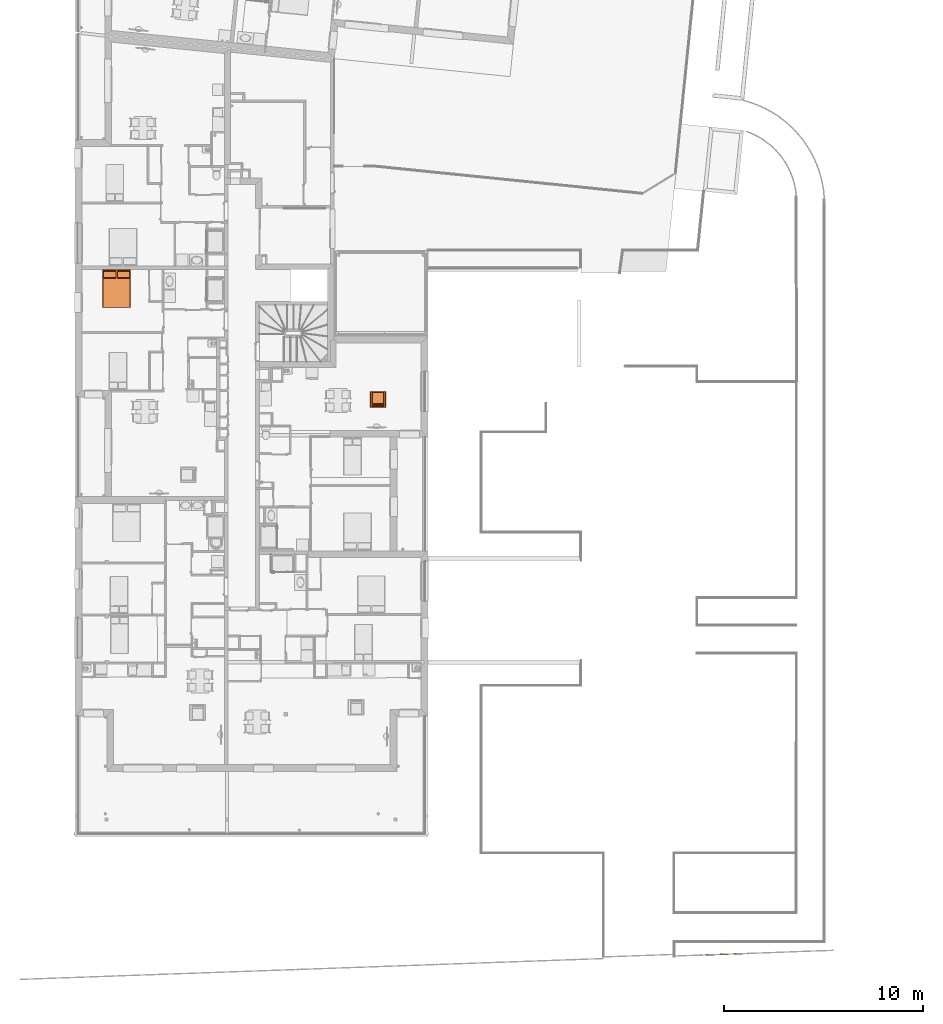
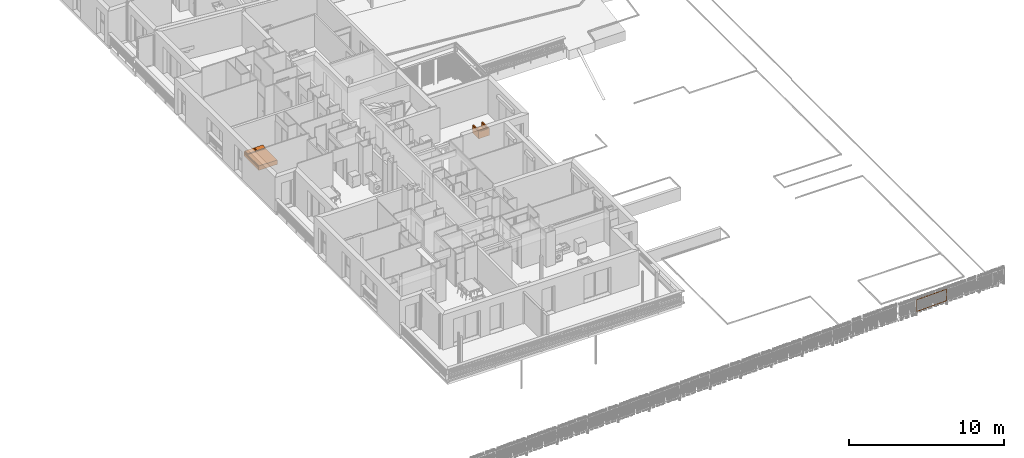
# One storey, part 156 of 171: 3 proxies.
"""IFC2X3 building model written with IfcOpenShell, lengths in millimetres."""

from ifc_helpers import new_model, entity, si_unit, converted_unit, derived_unit, money_unit, direction, frame, origin_with_axes, place, context, subcontext, project, spatial, open_shell, faceted_brep, surface_model, source, transform, mapped, type_object, element, save


model = new_model("IFC2X3")

# Units and contexts
model_context = context("Model", 3, precision=0.01, world=origin_with_axes(), true_north=direction((0.0, 1.0)))
body_context = subcontext(model_context, "Body", "Model", "MODEL_VIEW")
ifc_project = project(units=[si_unit("LENGTHUNIT", "METRE", prefix="MILLI"), si_unit("AREAUNIT", "SQUARE_METRE"), si_unit("VOLUMEUNIT", "CUBIC_METRE"), converted_unit("PLANEANGLEUNIT", "DEGREE", entity("IfcPlaneAngleMeasure", 0.0174532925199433), si_unit("PLANEANGLEUNIT", "RADIAN"), dimensions=[0, 0, 0, 0, 0, 0, 0]), money_unit("USD"), converted_unit("TIMEUNIT", "Year", entity("IfcTimeMeasure", 31557600.0), si_unit("TIMEUNIT", "SECOND"), dimensions=[0, 0, 1, 0, 0, 0, 0]), si_unit("MASSUNIT", "GRAM", prefix="KILO"), si_unit("THERMODYNAMICTEMPERATUREUNIT", "DEGREE_CELSIUS"), si_unit("LUMINOUSINTENSITYUNIT", "LUMEN"), si_unit("ENERGYUNIT", "JOULE", prefix="MEGA"), derived_unit("THERMALCONDUCTANCEUNIT", [(si_unit("POWERUNIT", "WATT"), 1), (si_unit("LENGTHUNIT", "METRE"), -1), (si_unit("THERMODYNAMICTEMPERATUREUNIT", "KELVIN"), -1)]), derived_unit("SPECIFICHEATCAPACITYUNIT", [(si_unit("ENERGYUNIT", "JOULE"), 1), (si_unit("MASSUNIT", "GRAM", prefix="KILO"), -1), (si_unit("THERMODYNAMICTEMPERATUREUNIT", "KELVIN"), -1)]), derived_unit("MASSDENSITYUNIT", [(si_unit("MASSUNIT", "GRAM", prefix="KILO"), 1), (si_unit("VOLUMEUNIT", "CUBIC_METRE"), -1)])], contexts=[model_context])

# Site, building, storey
site_placement = place(None, origin_with_axes())
site = spatial("IfcSite", under=ifc_project, at=site_placement, Name="Site", CompositionType="ELEMENT")
building_placement = place(site_placement, origin_with_axes())
building = spatial("IfcBuilding", under=site, at=building_placement, Name="Bâtiment", CompositionType="ELEMENT")
storey_placement = place(building_placement, frame((0.0, 0.0, 3000.0), z_axis=(0.0, 0.0, 1.0), x_axis=(1.0, 0.0, 0.0)))
storey = spatial("IfcBuildingStorey", under=building, at=storey_placement, Name="rdc", CompositionType="ELEMENT", Elevation=3000.0)

# Proxies
building_element_proxy_type = type_object("IfcBuildingElementProxyType", PredefinedType="NOTDEFINED")
shared_shape_1 = source(origin_with_axes(), body_context, "Body", "Brep", [
    faceted_brep([(-333.3000000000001, 66.7, 0.0), (-333.3000000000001, 100.0, 0.0), (-300.0000000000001, 100.0, 0.0), (-300.0000000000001, 66.7, 0.0), (-333.3000000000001, 66.7, 66.69999999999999), (-333.3000000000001, 100.0, 66.69999999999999), (-300.0000000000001, 100.0, 66.69999999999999), (-300.0000000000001, 66.7, 66.69999999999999)], [[[0, 1, 2, 3]], [[0, 4, 5, 1]], [[1, 5, 6, 2]], [[2, 6, 7, 3]], [[3, 7, 4, 0]], [[7, 6, 5, 4]]]),
    faceted_brep([(-333.3000000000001, 700.0000000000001, 0.0), (-333.3000000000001, 733.3000000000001, 0.0), (-300.0000000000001, 733.3000000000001, 0.0), (-300.0000000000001, 700.0000000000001, 0.0), (-333.3000000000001, 700.0000000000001, 66.69999999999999), (-333.3000000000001, 733.3000000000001, 66.69999999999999), (-300.0000000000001, 733.3000000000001, 66.69999999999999), (-300.0000000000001, 700.0000000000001, 66.69999999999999)], [[[0, 1, 2, 3]], [[0, 4, 5, 1]], [[1, 5, 6, 2]], [[2, 6, 7, 3]], [[3, 7, 4, 0]], [[7, 6, 5, 4]]]),
    faceted_brep([(300.0000000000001, 66.7, 0.0), (300.0000000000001, 100.0, 0.0), (333.3000000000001, 100.0, 0.0), (333.3000000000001, 66.7, 0.0), (300.0000000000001, 66.7, 66.69999999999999), (300.0000000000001, 100.0, 66.69999999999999), (333.3000000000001, 100.0, 66.69999999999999), (333.3000000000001, 66.7, 66.69999999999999)], [[[0, 1, 2, 3]], [[0, 4, 5, 1]], [[1, 5, 6, 2]], [[2, 6, 7, 3]], [[3, 7, 4, 0]], [[7, 6, 5, 4]]]),
    faceted_brep([(300.0000000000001, 700.0000000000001, 0.0), (300.0000000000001, 733.3000000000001, 0.0), (333.3000000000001, 733.3000000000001, 0.0), (333.3000000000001, 700.0000000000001, 0.0), (300.0000000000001, 700.0000000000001, 66.69999999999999), (300.0000000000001, 733.3000000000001, 66.69999999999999), (333.3000000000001, 733.3000000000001, 66.69999999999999), (333.3000000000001, 700.0000000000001, 66.69999999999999)], [[[0, 1, 2, 3]], [[0, 4, 5, 1]], [[1, 5, 6, 2]], [[2, 6, 7, 3]], [[3, 7, 4, 0]], [[7, 6, 5, 4]]]),
    faceted_brep([(-266.7, 800.0, 66.69999999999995), (-266.7, 0.0, 66.69999999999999), (-400.033, 0.0, 66.69999999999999), (-400.033, 800.0, 66.69999999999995), (-266.7, 800.0, 67.19999999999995), (-266.7, 0.0, 67.19999999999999), (-266.7, 0.0, 633.37), (-266.7, 0.0, 636.2859999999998), (-267.713, 0.0, 642.029), (-269.707, 0.0, 647.5099999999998), (-272.623, 0.0, 652.5599999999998), (-276.372, 0.0, 657.0279999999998), (-280.84, 0.0, 660.7769999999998), (-285.89, 0.0, 663.6929999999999), (-291.371, 0.0, 665.6869999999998), (-297.114, 0.0, 666.6999999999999), (-300.03, 0.0, 666.6999999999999), (-366.703, 0.0, 666.6999999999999), (-369.619, 0.0, 666.6999999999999), (-375.363, 0.0, 665.6869999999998), (-380.843, 0.0, 663.6929999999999), (-385.894, 0.0, 660.7769999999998), (-390.361, 0.0, 657.0279999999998), (-394.11, 0.0, 652.5599999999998), (-397.026, 0.0, 647.5099999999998), (-399.021, 0.0, 642.029), (-400.033, 0.0, 636.2859999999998), (-400.033, 0.0, 633.37), (-400.033, 800.0, 633.37), (-400.033, 800.0, 636.2859999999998), (-399.021, 800.0, 642.029), (-397.026, 800.0, 647.5099999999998), (-394.11, 800.0, 652.5599999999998), (-390.361, 800.0, 657.0279999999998), (-385.894, 800.0, 660.7769999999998), (-380.843, 800.0, 663.6929999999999), (-375.363, 800.0, 665.6869999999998), (-369.619, 800.0, 666.6999999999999), (-366.703, 800.0, 666.6999999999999), (-300.03, 800.0, 666.6999999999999), (-297.114, 800.0, 666.6999999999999), (-291.371, 800.0, 665.6869999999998), (-285.89, 800.0, 663.6929999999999), (-280.84, 800.0, 660.7769999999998), (-276.372, 800.0, 657.0279999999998), (-272.623, 800.0, 652.5599999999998), (-269.707, 800.0, 647.5099999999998), (-267.713, 800.0, 642.029), (-266.7, 800.0, 636.2859999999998), (-266.7, 800.0, 633.37)], [[[0, 1, 2, 3]], [[4, 5, 1, 0]], [[1, 5, 6, 7, 8, 9, 10, 11, 12, 13, 14, 15, 16, 17, 18, 19, 20, 21, 22, 23, 24, 25, 26, 27, 2]], [[3, 2, 27, 28]], [[0, 3, 28, 29, 30, 31, 32, 33, 34, 35, 36, 37, 38, 39, 40, 41, 42, 43, 44, 45, 46, 47, 48, 49, 4]], [[49, 6, 5, 4]], [[48, 7, 6, 49]], [[47, 8, 7, 48]], [[46, 9, 8, 47]], [[45, 10, 9, 46]], [[44, 11, 10, 45]], [[43, 12, 11, 44]], [[42, 13, 12, 43]], [[41, 14, 13, 42]], [[40, 15, 14, 41]], [[39, 16, 15, 40]], [[38, 17, 16, 39]], [[37, 18, 17, 38]], [[36, 19, 18, 37]], [[35, 20, 19, 36]], [[34, 21, 20, 35]], [[33, 22, 21, 34]], [[32, 23, 22, 33]], [[31, 24, 23, 32]], [[30, 25, 24, 31]], [[29, 26, 25, 30]], [[28, 27, 26, 29]]]),
    faceted_brep([(400.0, 800.0, 66.69999999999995), (400.0, 0.0, 66.69999999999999), (266.667, 0.0, 66.69999999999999), (266.667, 800.0, 66.69999999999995), (400.0, 800.0, 67.19999999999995), (400.0, 0.0, 67.19999999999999), (400.0, 0.0, 633.37), (400.0, 0.0, 636.2859999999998), (398.987, 0.0, 642.029), (396.9930000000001, 0.0, 647.5099999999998), (394.077, 0.0, 652.5599999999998), (390.328, 0.0, 657.0279999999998), (385.86, 0.0, 660.7769999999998), (380.8100000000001, 0.0, 663.6929999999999), (375.329, 0.0, 665.6869999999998), (369.586, 0.0, 666.6999999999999), (366.67, 0.0, 666.6999999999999), (299.997, 0.0, 666.6999999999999), (297.081, 0.0, 666.6999999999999), (291.337, 0.0, 665.6869999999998), (285.857, 0.0, 663.6929999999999), (280.806, 0.0, 660.7769999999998), (276.339, 0.0, 657.0279999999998), (272.59, 0.0, 652.5599999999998), (269.674, 0.0, 647.5099999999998), (267.679, 0.0, 642.029), (266.667, 0.0, 636.2859999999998), (266.667, 0.0, 633.37), (266.667, 800.0, 633.37), (266.667, 800.0, 636.2859999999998), (267.679, 800.0, 642.029), (269.674, 800.0, 647.5099999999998), (272.59, 800.0, 652.5599999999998), (276.339, 800.0, 657.0279999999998), (280.806, 800.0, 660.7769999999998), (285.857, 800.0, 663.6929999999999), (291.337, 800.0, 665.6869999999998), (297.081, 800.0, 666.6999999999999), (299.997, 800.0, 666.6999999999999), (366.67, 800.0, 666.6999999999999), (369.586, 800.0, 666.6999999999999), (375.329, 800.0, 665.6869999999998), (380.8100000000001, 800.0, 663.6929999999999), (385.86, 800.0, 660.7769999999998), (390.328, 800.0, 657.0279999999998), (394.077, 800.0, 652.5599999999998), (396.9930000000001, 800.0, 647.5099999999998), (398.987, 800.0, 642.029), (400.0, 800.0, 636.2859999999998), (400.0, 800.0, 633.37)], [[[0, 1, 2, 3]], [[4, 5, 1, 0]], [[1, 5, 6, 7, 8, 9, 10, 11, 12, 13, 14, 15, 16, 17, 18, 19, 20, 21, 22, 23, 24, 25, 26, 27, 2]], [[3, 2, 27, 28]], [[0, 3, 28, 29, 30, 31, 32, 33, 34, 35, 36, 37, 38, 39, 40, 41, 42, 43, 44, 45, 46, 47, 48, 49, 4]], [[49, 6, 5, 4]], [[48, 7, 6, 49]], [[47, 8, 7, 48]], [[46, 9, 8, 47]], [[45, 10, 9, 46]], [[44, 11, 10, 45]], [[43, 12, 11, 44]], [[42, 13, 12, 43]], [[41, 14, 13, 42]], [[40, 15, 14, 41]], [[39, 16, 15, 40]], [[38, 17, 16, 39]], [[37, 18, 17, 38]], [[36, 19, 18, 37]], [[35, 20, 19, 36]], [[34, 21, 20, 35]], [[33, 22, 21, 34]], [[32, 23, 22, 33]], [[31, 24, 23, 32]], [[30, 25, 24, 31]], [[29, 26, 25, 30]], [[28, 27, 26, 29]]]),
    faceted_brep([(266.6667, 0.0, 66.69999999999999), (-266.6333, 0.0, 66.69999999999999), (-266.6333, 800.0, 66.69999999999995), (266.6667, 800.0, 66.69999999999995), (266.6667, 0.0, 67.2), (-266.6333, 0.0, 67.2), (-266.6333, 0.0, 325.5449999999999), (-266.6333, -0.2359999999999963, 327.1109999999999), (-266.6333, 1.052000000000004, 338.7049999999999), (-266.6333, 4.334000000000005, 349.8989999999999), (-266.6333, 9.510000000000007, 360.3539999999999), (-266.6333, 16.42300000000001, 369.7509999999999), (-266.6333, 24.86200000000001, 377.8049999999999), (-266.6333, 34.57200000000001, 384.271), (-266.6333, 45.25800000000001, 388.9519999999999), (-266.6333, 56.59300000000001, 391.707), (-266.6333, 68.23500000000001, 392.4519999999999), (-266.6333, 74.03200000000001, 391.808), (-266.6333, 600.0000000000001, 333.3669999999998), (-266.6333, 600.0980000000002, 333.8569999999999), (-266.6333, 655.9480000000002, 613.1049999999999), (-266.6333, 656.6790000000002, 617.351), (-266.6333, 660.6690000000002, 628.314), (-266.6333, 666.5020000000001, 638.4159999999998), (-266.6333, 674.0000000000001, 647.3529999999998), (-266.6333, 682.937, 654.8509999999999), (-266.6333, 693.0390000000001, 660.6839999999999), (-266.6333, 704.0020000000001, 664.6739999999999), (-266.6333, 715.4900000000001, 666.6999999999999), (-266.6333, 721.3230000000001, 666.6999999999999), (-266.6333, 733.33, 666.6999999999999), (-266.6333, 739.163, 666.6999999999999), (-266.6333, 750.6510000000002, 664.6739999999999), (-266.6333, 761.614, 660.6839999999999), (-266.6333, 771.716, 654.8509999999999), (-266.6333, 780.653, 647.3529999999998), (-266.6333, 788.1510000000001, 638.4159999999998), (-266.6333, 793.984, 628.314), (-266.6333, 797.974, 617.351), (-266.6333, 800.0, 605.8629999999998), (-266.6333, 800.0, 600.0299999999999), (266.6667, 800.0, 600.0299999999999), (266.6667, 800.0, 605.8629999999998), (266.6667, 797.974, 617.351), (266.6667, 793.984, 628.314), (266.6667, 788.1510000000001, 638.4159999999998), (266.6667, 780.653, 647.3529999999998), (266.6667, 771.716, 654.8509999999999), (266.6667, 761.614, 660.6839999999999), (266.6667, 750.6510000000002, 664.6739999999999), (266.6667, 739.163, 666.6999999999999), (266.6667, 733.33, 666.6999999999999), (266.6667, 721.3230000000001, 666.6999999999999), (266.6667, 715.4900000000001, 666.6999999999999), (266.6667, 704.0020000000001, 664.6739999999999), (266.6667, 693.0390000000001, 660.6839999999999), (266.6667, 682.937, 654.8509999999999), (266.6667, 674.0000000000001, 647.3529999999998), (266.6667, 666.5020000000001, 638.4159999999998), (266.6667, 660.6690000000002, 628.314), (266.6667, 656.6790000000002, 617.351), (266.6667, 655.9480000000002, 613.1049999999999), (266.6667, 600.0980000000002, 333.8569999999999), (266.6667, 600.0000000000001, 333.3669999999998), (266.6667, 74.03200000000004, 391.808), (266.6667, 68.23500000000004, 392.4519999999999), (266.6667, 56.59300000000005, 391.707), (266.6667, 45.25800000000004, 388.9519999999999), (266.6667, 34.57200000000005, 384.271), (266.6667, 24.86200000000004, 377.8049999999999), (266.6667, 16.42300000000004, 369.7509999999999), (266.6667, 9.510000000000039, 360.3539999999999), (266.6667, 4.334000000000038, 349.8989999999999), (266.6667, 1.052000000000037, 338.7049999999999), (266.6667, -0.2359999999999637, 327.1109999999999), (266.6667, 0.0, 325.5449999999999)], [[[0, 1, 2, 3]], [[4, 5, 1, 0]], [[1, 5, 6, 7, 8, 9, 10, 11, 12, 13, 14, 15, 16, 17, 18, 19, 20, 21, 22, 23, 24, 25, 26, 27, 28, 29, 30, 31, 32, 33, 34, 35, 36, 37, 38, 39, 40, 2]], [[3, 2, 40, 41]], [[0, 3, 41, 42, 43, 44, 45, 46, 47, 48, 49, 50, 51, 52, 53, 54, 55, 56, 57, 58, 59, 60, 61, 62, 63, 64, 65, 66, 67, 68, 69, 70, 71, 72, 73, 74, 75, 4]], [[75, 6, 5, 4]], [[74, 7, 6, 75]], [[73, 8, 7, 74]], [[72, 9, 8, 73]], [[71, 10, 9, 72]], [[70, 11, 10, 71]], [[69, 12, 11, 70]], [[68, 13, 12, 69]], [[67, 14, 13, 68]], [[66, 15, 14, 67]], [[65, 16, 15, 66]], [[64, 17, 16, 65]], [[63, 18, 17, 64]], [[62, 19, 18, 63]], [[61, 20, 19, 62]], [[60, 21, 20, 61]], [[59, 22, 21, 60]], [[58, 23, 22, 59]], [[57, 24, 23, 58]], [[56, 25, 24, 57]], [[55, 26, 25, 56]], [[54, 27, 26, 55]], [[53, 28, 27, 54]], [[52, 29, 28, 53]], [[51, 30, 29, 52]], [[50, 31, 30, 51]], [[49, 32, 31, 50]], [[48, 33, 32, 49]], [[47, 34, 33, 48]], [[46, 35, 34, 47]], [[45, 36, 35, 46]], [[44, 37, 36, 45]], [[43, 38, 37, 44]], [[42, 39, 38, 43]], [[41, 40, 39, 42]]]),
])
proxy_1_placement = place(storey_placement, frame((2231855.23564432, -638726.0960661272, 800.0000000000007), z_axis=(0.0, 0.0, 1.0), x_axis=(-0.9999998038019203, 0.0006264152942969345, 0.0)))
element("IfcBuildingElementProxy", 1, at=proxy_1_placement, inside=storey, type_object=building_element_proxy_type, Name="Obj.-034", context=body_context, shape_type="MappedRepresentation", body=[
    mapped(shared_shape_1, transform((0.0, 0.0, 0.0))),
])
shared_shape_2 = source(origin_with_axes(), body_context, "Body", "SurfaceModel", [
    faceted_brep([(-622.2222222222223, -95.0, 0.0), (-661.1111111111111, -95.0, 0.0), (-661.1111111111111, -47.5, 0.0), (-622.2222222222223, -47.5, 0.0), (-622.2222222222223, -95.0, 50.0), (-661.1111111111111, -95.0, 50.0), (-661.1111111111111, -47.5, 50.0), (-622.2222222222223, -47.5, 50.0)], [[[0, 1, 2, 3]], [[1, 0, 4, 5]], [[2, 1, 5, 6]], [[3, 2, 6, 7]], [[0, 3, 7, 4]], [[5, 4, 7, 6]]]),
    faceted_brep([(-622.2222222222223, -1852.5, 0.0), (-661.1111111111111, -1852.5, 0.0), (-661.1111111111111, -1805.0, 0.0), (-622.2222222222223, -1805.0, 0.0), (-622.2222222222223, -1852.5, 50.0), (-661.1111111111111, -1852.5, 50.0), (-661.1111111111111, -1805.0, 50.0), (-622.2222222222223, -1805.0, 50.0)], [[[0, 1, 2, 3]], [[1, 0, 4, 5]], [[2, 1, 5, 6]], [[3, 2, 6, 7]], [[0, 3, 7, 4]], [[5, 4, 7, 6]]]),
    faceted_brep([(661.111111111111, -1852.5, 0.0), (622.2222222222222, -1852.5, 0.0), (622.2222222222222, -1805.0, 0.0), (661.111111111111, -1805.0, 0.0), (661.111111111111, -1852.5, 50.0), (622.2222222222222, -1852.5, 50.0), (622.2222222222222, -1805.0, 50.0), (661.111111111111, -1805.0, 50.0)], [[[0, 1, 2, 3]], [[1, 0, 4, 5]], [[2, 1, 5, 6]], [[3, 2, 6, 7]], [[0, 3, 7, 4]], [[5, 4, 7, 6]]]),
    faceted_brep([(661.111111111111, -94.99999999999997, 0.0), (622.2222222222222, -94.99999999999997, 0.0), (622.2222222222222, -47.49999999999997, 0.0), (661.111111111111, -47.49999999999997, 0.0), (661.111111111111, -94.99999999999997, 50.0), (622.2222222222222, -94.99999999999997, 50.0), (622.2222222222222, -47.49999999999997, 50.0), (661.111111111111, -47.49999999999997, 50.0)], [[[0, 1, 2, 3]], [[1, 0, 4, 5]], [[2, 1, 5, 6]], [[3, 2, 6, 7]], [[0, 3, 7, 4]], [[5, 4, 7, 6]]]),
    faceted_brep([(-700.0, 0.0, 50.0), (700.0, 0.0, 50.0), (700.0, -1900.0, 50.00000000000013), (-700.0, -1900.0, 50.00000000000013), (-700.0, 0.0, 250.0), (700.0, 0.0, 250.0), (700.0, -1900.0, 250.0000000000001), (-700.0, -1900.0, 250.0000000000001)], [[[0, 1, 2, 3]], [[0, 4, 5, 1]], [[1, 5, 6, 2]], [[3, 2, 6, 7]], [[4, 0, 3, 7]], [[5, 4, 7, 6]]]),
    surface_model("IfcShellBasedSurfaceModel", [(661.1111111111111, 0.0, 250.0), (667.8640957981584, 0.0, 250.7596123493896), (667.8640957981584, -1900.0, 250.7596123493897), (661.1111111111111, -1900.0, 250.0000000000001), (-661.1111111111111, 0.0, 250.0), (-667.8640957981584, 0.0, 250.7596123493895), (-674.4118944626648, 0.0, 253.0153689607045), (-680.5555555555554, 0.0, 256.698729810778), (-686.1084070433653, 0.0, 261.6977778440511), (-690.9017283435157, 0.0, 267.860619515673), (-694.7898768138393, 0.0, 275.0), (-697.654713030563, 0.0, 282.8989928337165), (-699.4091903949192, 0.0, 291.3175911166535), (-700.0, 0.0, 300.0000000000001), (-700.0000000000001, 0.0, 350.0), (-699.4091903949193, 0.0, 358.6824088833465), (-697.654713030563, 0.0, 367.1010071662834), (-694.7898768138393, 0.0, 375.0), (-690.9017283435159, 0.0, 382.139380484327), (-686.1084070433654, 0.0, 388.3022221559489), (-680.5555555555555, 0.0, 393.301270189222), (-674.4118944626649, 0.0, 396.9846310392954), (-667.8640957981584, 0.0, 399.2403876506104), (-661.1111111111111, 0.0, 400.0), (661.111111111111, 0.0, 400.0000000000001), (667.8640957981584, 0.0, 399.2403876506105), (674.4118944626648, 0.0, 396.9846310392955), (680.5555555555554, 0.0, 393.301270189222), (686.1084070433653, 0.0, 388.3022221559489), (690.9017283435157, 0.0, 382.139380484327), (694.7898768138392, 0.0, 375.0000000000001), (697.654713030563, 0.0, 367.1010071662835), (699.4091903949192, 0.0, 358.6824088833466), (700.0, 0.0, 350.0000000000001), (700.0, 0.0, 300.0000000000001), (699.4091903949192, 0.0, 291.3175911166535), (697.654713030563, 0.0, 282.8989928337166), (694.7898768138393, 0.0, 275.0), (690.9017283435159, 0.0, 267.8606195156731), (686.1084070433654, 0.0, 261.6977778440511), (680.5555555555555, 0.0, 256.698729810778), (674.4118944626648, 0.0, 253.0153689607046), (674.4118944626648, -1900.0, 253.0153689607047), (-661.1111111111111, -1900.0, 250.0000000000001), (680.5555555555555, -1900.0, 256.6987298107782), (686.1084070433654, -1900.0, 261.6977778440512), (690.9017283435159, -1900.0, 267.8606195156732), (694.7898768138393, -1900.0, 275.0000000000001), (697.654713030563, -1900.0, 282.8989928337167), (699.4091903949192, -1900.0, 291.3175911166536), (700.0, -1900.0, 300.0000000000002), (700.0, -1900.0, 350.0000000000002), (699.4091903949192, -1900.0, 358.6824088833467), (697.654713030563, -1900.0, 367.1010071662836), (694.7898768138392, -1900.0, 375.0000000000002), (690.9017283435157, -1900.0, 382.1393804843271), (686.1084070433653, -1900.0, 388.302222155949), (680.5555555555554, -1900.0, 393.3012701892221), (674.4118944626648, -1900.0, 396.9846310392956), (667.8640957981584, -1900.0, 399.2403876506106), (661.111111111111, -1900.0, 400.0000000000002), (-661.1111111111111, -1900.0, 400.0000000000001), (-667.8640957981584, -1900.0, 399.2403876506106), (-674.4118944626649, -1900.0, 396.9846310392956), (-680.5555555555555, -1900.0, 393.3012701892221), (-686.1084070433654, -1900.0, 388.302222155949), (-690.9017283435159, -1900.0, 382.1393804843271), (-694.7898768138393, -1900.0, 375.0000000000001), (-697.654713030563, -1900.0, 367.1010071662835), (-699.4091903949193, -1900.0, 358.6824088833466), (-700.0000000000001, -1900.0, 350.0000000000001), (-700.0, -1900.0, 300.0000000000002), (-699.4091903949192, -1900.0, 291.3175911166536), (-697.654713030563, -1900.0, 282.8989928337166), (-694.7898768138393, -1900.0, 275.0000000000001), (-690.9017283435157, -1900.0, 267.8606195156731), (-686.1084070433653, -1900.0, 261.6977778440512), (-680.5555555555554, -1900.0, 256.6987298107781), (-674.4118944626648, -1900.0, 253.0153689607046), (-667.8640957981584, -1900.0, 250.7596123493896)], [open_shell([[[0, 1, 2, 3]], [[4, 5, 6, 7, 8, 9, 10, 11, 12, 13, 14, 15, 16, 17, 18, 19, 20, 21, 22, 23, 24, 25, 26, 27, 28, 29, 30, 31, 32, 33, 34, 35, 36, 37, 38, 39, 40, 41, 1, 0]], [[1, 41, 42, 2]], [[43, 3, 2, 42, 44, 45, 46, 47, 48, 49, 50, 51, 52, 53, 54, 55, 56, 57, 58, 59, 60, 61, 62, 63, 64, 65, 66, 67, 68, 69, 70, 71, 72, 73, 74, 75, 76, 77, 78, 79]], [[5, 4, 43, 79]], [[6, 5, 79, 78]], [[7, 6, 78, 77]], [[8, 7, 77, 76]], [[9, 8, 76, 75]], [[10, 9, 75, 74]], [[11, 10, 74, 73]], [[12, 11, 73, 72]], [[13, 12, 72, 71]], [[14, 13, 71, 70]], [[15, 14, 70, 69]], [[16, 15, 69, 68]], [[17, 16, 68, 67]], [[18, 17, 67, 66]], [[19, 18, 66, 65]], [[20, 19, 65, 64]], [[21, 20, 64, 63]], [[22, 21, 63, 62]], [[23, 22, 62, 61]], [[24, 23, 61, 60]], [[25, 24, 60, 59]], [[26, 25, 59, 58]], [[27, 26, 58, 57]], [[28, 27, 57, 56]], [[29, 28, 56, 55]], [[30, 29, 55, 54]], [[31, 30, 54, 53]], [[32, 31, 53, 52]], [[33, 32, 52, 51]], [[34, 33, 51, 50]], [[35, 34, 50, 49]], [[36, 35, 49, 48]], [[37, 36, 48, 47]], [[38, 37, 47, 46]], [[39, 38, 46, 45]], [[40, 39, 45, 44]], [[41, 40, 44, 42]]])]),
    faceted_brep([(38.88888888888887, -47.49999999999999, 400.0), (38.88888888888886, -47.49999999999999, 443.4), (661.1111111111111, -47.50000000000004, 443.4000000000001), (661.1111111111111, -47.50000000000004, 400.0000000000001), (38.88888888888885, -427.5, 400.0), (38.88888888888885, -427.6960812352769, 408.695442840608), (38.88888888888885, -426.4675711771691, 417.2966661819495), (38.88888888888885, -423.8511300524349, 425.5469991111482), (38.88888888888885, -419.9248356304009, 433.2002417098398), (38.88888888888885, -414.8058532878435, 440.0280119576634), (38.88888888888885, -408.6469396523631, 445.826560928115), (38.88888888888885, -401.6318841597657, 450.4228529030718), (38.88888888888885, -393.9700245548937, 453.6797289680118), (38.88888888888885, -385.89, 455.5), (38.88888888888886, -100.89, 493.0000000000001), (38.88888888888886, -92.85488048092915, 493.3370808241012), (38.88888888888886, -84.88093291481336, 492.2422169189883), (38.88888888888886, -77.19681007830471, 489.7468034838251), (38.88888888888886, -70.02285403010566, 485.922396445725), (38.88888888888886, -63.56477780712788, 480.878660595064), (38.88888888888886, -58.00776660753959, 474.7602249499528), (38.88888888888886, -53.51116760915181, 467.7425355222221), (38.88888888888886, -50.20392069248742, 460.0268244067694), (38.88888888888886, -48.18086109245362, 451.834339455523), (661.1111111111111, -48.18086109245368, 451.8343394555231), (661.1111111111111, -50.20392069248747, 460.0268244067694), (661.1111111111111, -53.51116760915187, 467.7425355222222), (661.1111111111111, -58.00776660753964, 474.7602249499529), (661.1111111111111, -63.56477780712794, 480.878660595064), (661.1111111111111, -70.02285403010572, 485.922396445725), (661.1111111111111, -77.19681007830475, 489.7468034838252), (661.1111111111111, -84.88093291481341, 492.2422169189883), (661.1111111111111, -92.85488048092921, 493.3370808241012), (661.1111111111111, -100.8900000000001, 493.0000000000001), (661.1111111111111, -385.89, 455.5000000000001), (661.1111111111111, -393.9700245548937, 453.6797289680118), (661.1111111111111, -401.6318841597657, 450.4228529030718), (661.1111111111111, -408.6469396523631, 445.826560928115), (661.1111111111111, -414.8058532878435, 440.0280119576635), (661.1111111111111, -419.924835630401, 433.2002417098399), (661.1111111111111, -423.8511300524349, 425.5469991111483), (661.1111111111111, -426.4675711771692, 417.2966661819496), (661.1111111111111, -427.6960812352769, 408.6954428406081), (661.1111111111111, -427.5, 400.0000000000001)], [[[0, 1, 2, 3]], [[0, 4, 5, 6, 7, 8, 9, 10, 11, 12, 13, 14, 15, 16, 17, 18, 19, 20, 21, 22, 23, 1]], [[1, 23, 24, 2]], [[3, 2, 24, 25, 26, 27, 28, 29, 30, 31, 32, 33, 34, 35, 36, 37, 38, 39, 40, 41, 42, 43]], [[4, 0, 3, 43]], [[5, 4, 43, 42]], [[6, 5, 42, 41]], [[7, 6, 41, 40]], [[8, 7, 40, 39]], [[9, 8, 39, 38]], [[10, 9, 38, 37]], [[11, 10, 37, 36]], [[12, 11, 36, 35]], [[13, 12, 35, 34]], [[14, 13, 34, 33]], [[15, 14, 33, 32]], [[16, 15, 32, 31]], [[17, 16, 31, 30]], [[18, 17, 30, 29]], [[19, 18, 29, 28]], [[20, 19, 28, 27]], [[21, 20, 27, 26]], [[22, 21, 26, 25]], [[23, 22, 25, 24]]]),
    faceted_brep([(-661.1111111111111, -47.49999999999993, 399.9999999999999), (-661.1111111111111, -47.49999999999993, 443.4), (-38.88888888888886, -47.49999999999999, 443.4), (-38.88888888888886, -47.49999999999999, 400.0), (-661.1111111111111, -427.4999999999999, 399.9999999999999), (-661.1111111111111, -427.6960812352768, 408.6954428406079), (-661.1111111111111, -426.4675711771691, 417.2966661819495), (-661.1111111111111, -423.8511300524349, 425.5469991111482), (-661.1111111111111, -419.9248356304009, 433.2002417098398), (-661.1111111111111, -414.8058532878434, 440.0280119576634), (-661.1111111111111, -408.646939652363, 445.8265609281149), (-661.1111111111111, -401.6318841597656, 450.4228529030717), (-661.1111111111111, -393.9700245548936, 453.6797289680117), (-661.1111111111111, -385.8899999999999, 455.4999999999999), (-661.1111111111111, -100.89, 493.0), (-661.1111111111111, -92.8548804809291, 493.3370808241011), (-661.1111111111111, -84.8809329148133, 492.2422169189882), (-661.1111111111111, -77.19681007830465, 489.7468034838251), (-661.1111111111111, -70.0228540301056, 485.9223964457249), (-661.1111111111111, -63.56477780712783, 480.8786605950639), (-661.1111111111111, -58.00776660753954, 474.7602249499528), (-661.1111111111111, -53.51116760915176, 467.7425355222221), (-661.1111111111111, -50.20392069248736, 460.0268244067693), (-661.1111111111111, -48.18086109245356, 451.834339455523), (-38.88888888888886, -48.18086109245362, 451.834339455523), (-38.88888888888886, -50.20392069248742, 460.0268244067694), (-38.88888888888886, -53.51116760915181, 467.7425355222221), (-38.88888888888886, -58.00776660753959, 474.7602249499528), (-38.88888888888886, -63.56477780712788, 480.878660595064), (-38.88888888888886, -70.02285403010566, 485.922396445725), (-38.88888888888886, -77.19681007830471, 489.7468034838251), (-38.88888888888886, -84.88093291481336, 492.2422169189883), (-38.88888888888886, -92.85488048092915, 493.3370808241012), (-38.88888888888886, -100.89, 493.0000000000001), (-38.88888888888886, -385.8899999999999, 455.5), (-38.88888888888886, -393.9700245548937, 453.6797289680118), (-38.88888888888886, -401.6318841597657, 450.4228529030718), (-38.88888888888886, -408.6469396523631, 445.826560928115), (-38.88888888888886, -414.8058532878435, 440.0280119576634), (-38.88888888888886, -419.9248356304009, 433.2002417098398), (-38.88888888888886, -423.8511300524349, 425.5469991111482), (-38.88888888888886, -426.4675711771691, 417.2966661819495), (-38.88888888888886, -427.6960812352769, 408.695442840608), (-38.88888888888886, -427.4999999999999, 400.0)], [[[0, 1, 2, 3]], [[0, 4, 5, 6, 7, 8, 9, 10, 11, 12, 13, 14, 15, 16, 17, 18, 19, 20, 21, 22, 23, 1]], [[1, 23, 24, 2]], [[3, 2, 24, 25, 26, 27, 28, 29, 30, 31, 32, 33, 34, 35, 36, 37, 38, 39, 40, 41, 42, 43]], [[4, 0, 3, 43]], [[5, 4, 43, 42]], [[6, 5, 42, 41]], [[7, 6, 41, 40]], [[8, 7, 40, 39]], [[9, 8, 39, 38]], [[10, 9, 38, 37]], [[11, 10, 37, 36]], [[12, 11, 36, 35]], [[13, 12, 35, 34]], [[14, 13, 34, 33]], [[15, 14, 33, 32]], [[16, 15, 32, 31]], [[17, 16, 31, 30]], [[18, 17, 30, 29]], [[19, 18, 29, 28]], [[20, 19, 28, 27]], [[21, 20, 27, 26]], [[22, 21, 26, 25]], [[23, 22, 25, 24]]]),
])
proxy_2_placement = place(storey_placement, frame((2218718.618679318, -632613.6186700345, 0.0), z_axis=(0.0, 0.0, 1.0), x_axis=(0.9999999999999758, -2.201927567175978e-07, 0.0)))
element("IfcBuildingElementProxy", 2, at=proxy_2_placement, inside=storey, type_object=building_element_proxy_type, Name="Obj.-003", context=body_context, shape_type="MappedRepresentation", body=[
    mapped(shared_shape_2, transform((0.0, 0.0, 0.0))),
])
shared_shape_3 = source(origin_with_axes(), body_context, "Body", "Brep", [
    faceted_brep([(0.0, 0.0, 50.0), (2294.467978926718, 0.0, 50.0), (2294.467978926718, -40.0, 50.0), (0.0, -40.0, 50.0), (0.0, 0.0, 1000.0), (2294.467978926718, 0.0, 1000.0), (40.0, 0.0, 90.0), (2254.467978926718, 0.0, 90.0), (2254.467978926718, 0.0, 960.0), (40.0, 0.0, 960.0), (2294.467978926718, -39.99999999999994, 1000.0), (0.0, -39.99999999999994, 1000.0), (40.0, -39.99999999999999, 90.0), (40.0, -39.99999999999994, 960.0), (2254.467978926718, -39.99999999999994, 960.0), (2254.467978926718, -39.99999999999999, 90.0)], [[[0, 1, 2, 3]], [[0, 4, 5, 1], [6, 7, 8, 9]], [[1, 5, 10, 2]], [[3, 2, 10, 11], [12, 13, 14, 15]], [[4, 0, 3, 11]], [[5, 4, 11, 10]], [[7, 6, 12, 15]], [[8, 7, 15, 14]], [[9, 8, 14, 13]], [[6, 9, 13, 12]]]),
])
proxy_3_placement = place(storey_placement, frame((2250397.790056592, -666980.1238674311, -1900.0), z_axis=(0.0, 0.0, 1.0), x_axis=(-0.9993632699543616, -0.03567989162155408, 0.0)))
element("IfcBuildingElementProxy", 3, at=proxy_3_placement, inside=storey, type_object=building_element_proxy_type, Name="Obj.-047", context=body_context, shape_type="MappedRepresentation", body=[
    mapped(shared_shape_3, transform((0.0, 0.0, 0.0))),
])

save(model, "model.ifc")
